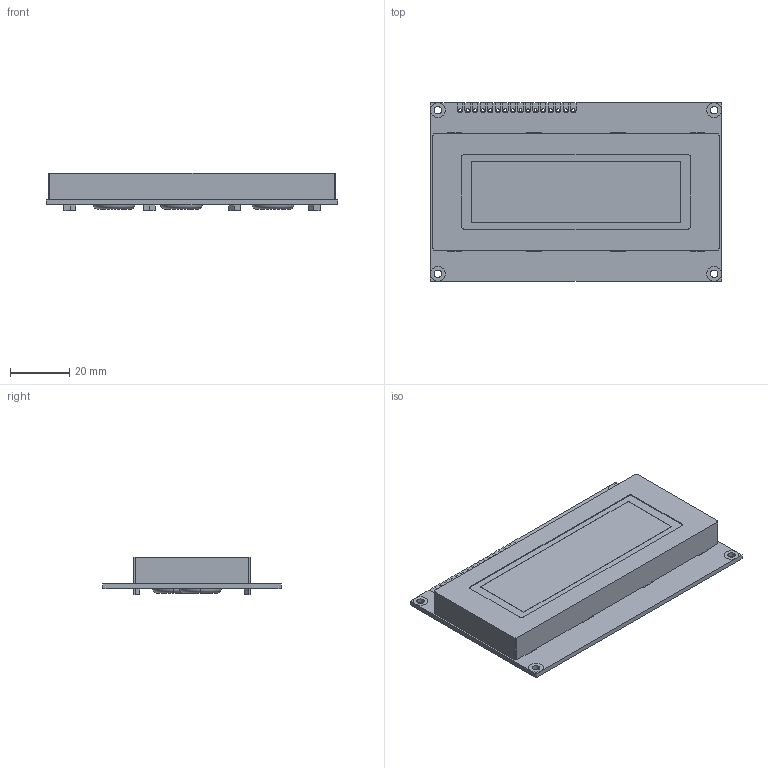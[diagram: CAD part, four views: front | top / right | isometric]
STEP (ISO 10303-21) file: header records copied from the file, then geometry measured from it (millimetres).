
FILE_DESCRIPTION (( 'STEP AP214' ), '1' );
FILE_NAME ('NHD-0420DZ-NSW-BBW.STEP', '2017-12-20T22:21:58', ( '' ), ( '' ), 'SwSTEP 2.0', 'SolidWorks 2018', '' );
FILE_SCHEMA (( 'AUTOMOTIVE_DESIGN' ));
Length unit declared in the file: millimetre
Products named in the file (1): NHD-0420DZ-NSW-BBW
Bounding box: 98 x 60 x 12.7 mm (x, y, z)
Volume: 43783.7 mm3; surface area: 15287.6 mm2
Topology: 1 solids, 1 shells, 386 faces, 1094 edges, 708 vertices
Faces by surface type: plane 256, cylinder 124, torus 6
Entity records: 16832 total; most frequent: CARTESIAN_POINT 2189, ORIENTED_EDGE 2188, DIRECTION 2142, EDGE_CURVE 1094, LINE 820, VECTOR 820, VERTEX_POINT 708, AXIS2_PLACEMENT_3D 661
